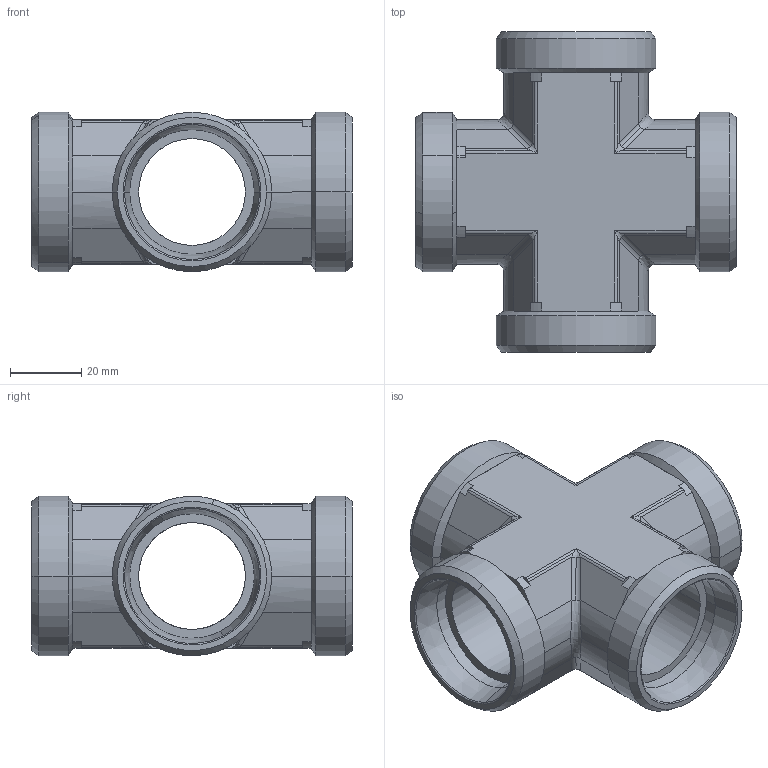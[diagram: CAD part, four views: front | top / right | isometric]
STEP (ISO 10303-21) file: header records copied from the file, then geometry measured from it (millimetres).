
FILE_DESCRIPTION((''),'2;1');
FILE_NAME('104012.stp','2007-10-31T13:15:21',(''),(''),'AutoCAD STEP 2000i','AutoCAD 2000i',', , ');
FILE_SCHEMA(('CONFIG_CONTROL_DESIGN'));
Length unit declared in the file: millimetre
Products named in the file (2): 104012.0; 3093#0
Assembly tree (1 placements, depth 2):
  104012.0
    3093#0
Bounding box: 90 x 90 x 44.82 mm (x, y, z)
Volume: 84932.3 mm3; surface area: 34810.2 mm2
Topology: 1 solids, 1 shells, 208 faces, 530 edges, 318 vertices
Faces by surface type: cylinder 106, plane 58, cone 24, bspline 20
Entity records: 7827 total; most frequent: CARTESIAN_POINT 2578, DIRECTION 1182, ORIENTED_EDGE 1044, EDGE_CURVE 522, AXIS2_PLACEMENT_3D 470, VERTEX_POINT 318, VECTOR 242, LINE 242
